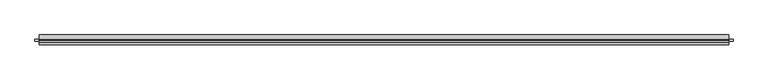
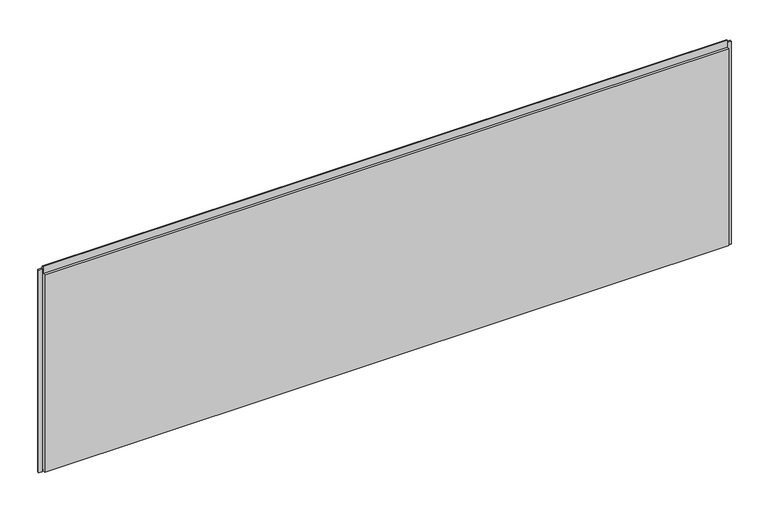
"""IFC4 building model written with IfcOpenShell, lengths in millimetres: plate geometry, Trimo_Qbiss Screen_Normal Panel-HORIZONTAL : HR - B."""

from ifc_helpers import new_model, si_unit, frame, origin, place, context, project, spatial, polyline, outline, extrude, source, transform, mapped, element, save


def plate_5e959410(model_context):
    return source(origin(), model_context, "Body", "SweptSolid", [
        extrude(outline(polyline([(-1778.0, 76.5978162), (-1778.0, 67.8978162), (-1797.0, 67.8978162), (-1797.0, 76.5978162), (-1778.0, 76.5978162)])), frame((0.0, 0.0, -1.0), z_axis=(0.0, 0.0, 1.0), x_axis=(1.0, 0.0, 0.0)), (0.0, 0.0, 1.0), 1112.5),
        extrude(outline(polyline([(1778.0, 67.8978162), (1778.0, 76.5978162), (1797.0, 76.5978162), (1797.0, 67.8978162), (1778.0, 67.8978162)])), frame((0.0, 0.0, -1.0), z_axis=(0.0, 0.0, 1.0), x_axis=(1.0, 0.0, 0.0)), (0.0, 0.0, 1.0), 1112.5),
        extrude(outline(polyline([(1775.0, 76.0), (1775.0, 71.0), (-1775.0, 71.0), (-1775.0, 76.0), (1775.0, 76.0)])), frame((0.0, 0.0, 1090.5), z_axis=(0.0, 0.0, 1.0), x_axis=(1.0, 0.0, 0.0)), (0.0, 0.0, 1.0), 21.0),
        extrude(outline(polyline([(71.0, 1089.5), (100.0, 1089.5), (100.0, 0.0), (72.0, 0.0), (72.0, 15.5), (62.0, 15.5), (62.0, 7.0), (50.0, 7.0), (50.0, 1089.5), (63.0, 1089.5), (63.0, 1127.0), (71.0, 1127.0), (71.0, 1089.5)])), frame((-1775.0, 0.0, 0.0), z_axis=(1.0, 0.0, 0.0), x_axis=(0.0, 1.0, 0.0)), (0.0, 0.0, 1.0), 3550.0),
    ])


if __name__ == "__main__":
    model = new_model("IFC4")
    model_context = context("Model", 3, world=origin())
    ifc_project = project(units=[si_unit("LENGTHUNIT", "METRE", prefix="MILLI")], contexts=[model_context])
    site = spatial("IfcSite", under=ifc_project)
    building = spatial("IfcBuilding", under=site)
    placement = place(None, origin())
    plate_shape = plate_5e959410(model_context)
    element("IfcPlate", 1, ObjectType="Trimo_Qbiss Screen_Normal Panel-HORIZONTAL : HR - B", at=placement, inside=building, context=model_context, shape_type="MappedRepresentation", body=[
        mapped(plate_shape, transform((0.0, 0.0, 0.0), x_axis=(1.0, 0.0, 0.0), y_axis=(0.0, 1.0, 0.0), z_axis=(0.0, 0.0, 1.0))),
    ])
    save(model, "model.ifc")
